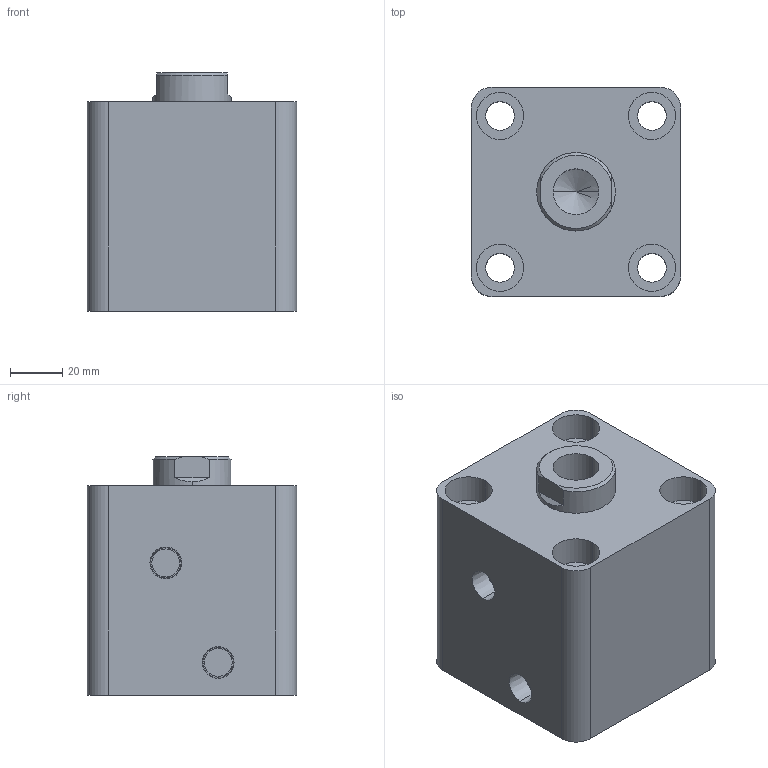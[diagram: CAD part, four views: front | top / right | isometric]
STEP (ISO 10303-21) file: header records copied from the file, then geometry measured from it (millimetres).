
FILE_DESCRIPTION (( 'STEP AP203' ), '1' );
FILE_NAME ('HTB-SD50-20N.STEP', '2019-10-07T07:06:55', ( '微软用户' ), ( '微软中国' ), 'SwSTEP 2.0', 'SolidWorks 2012', '' );
FILE_SCHEMA (( 'CONFIG_CONTROL_DESIGN' ));
Length unit declared in the file: millimetre
Products named in the file (3): HTB-SD50-20N; HTB-SD50-20N活塞杆; HTB-SD50-20掛极
Assembly tree (2 placements, depth 2):
  HTB-SD50-20N
    HTB-SD50-20掛极
    HTB-SD50-20N活塞杆
Bounding box: 80 x 80 x 91 mm (x, y, z)
Volume: 436710.6 mm3; surface area: 75893.5 mm2
Topology: 2 solids, 2 shells, 83 faces, 184 edges, 119 vertices
Faces by surface type: cylinder 42, plane 27, cone 8, torus 6
Entity records: 2655 total; most frequent: DIRECTION 456, CARTESIAN_POINT 417, ORIENTED_EDGE 364, AXIS2_PLACEMENT_3D 194, EDGE_CURVE 182, VERTEX_POINT 119, EDGE_LOOP 107, CIRCLE 106
